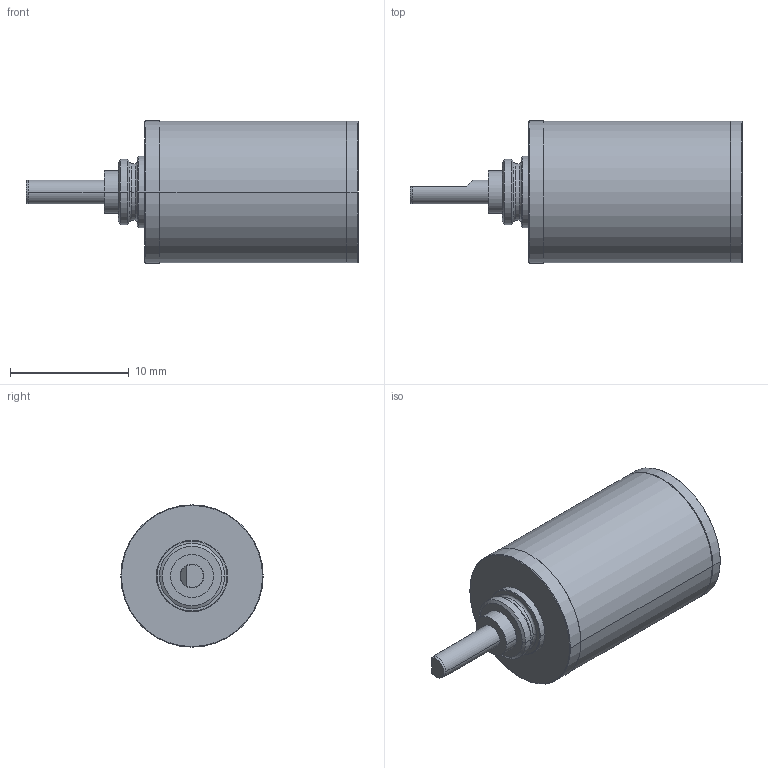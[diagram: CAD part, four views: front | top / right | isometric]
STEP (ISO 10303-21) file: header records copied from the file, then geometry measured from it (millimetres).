
FILE_DESCRIPTION((''),'2;1');
FILE_NAME('GS12A','2016-10-06T',('mmagpetk'),(''),'CREO PARAMETRIC BY PTC INC, 2016050','CREO PARAMETRIC BY PTC INC, 2016050','');
FILE_SCHEMA(('CONFIG_CONTROL_DESIGN'));
Length unit declared in the file: millimetre
Products named in the file (1): GS12A
Bounding box: 28 x 12 x 12 mm (x, y, z)
Volume: 1901.9 mm3; surface area: 1308.8 mm2
Topology: 1 solids, 1 shells, 94 faces, 201 edges, 122 vertices
Faces by surface type: cylinder 34, plane 25, cone 25, torus 10
Entity records: 3339 total; most frequent: CARTESIAN_POINT 504, DIRECTION 492, ORIENTED_EDGE 402, AXIS2_PLACEMENT_3D 211, PRESENTATION_STYLE_ASSIGNMENT 202, STYLED_ITEM 202, CURVE_STYLE 201, EDGE_CURVE 201
